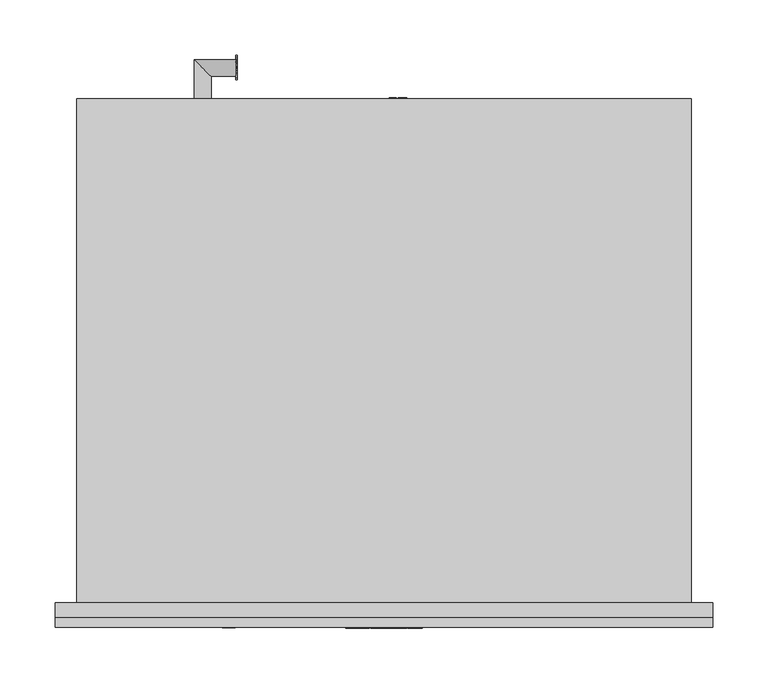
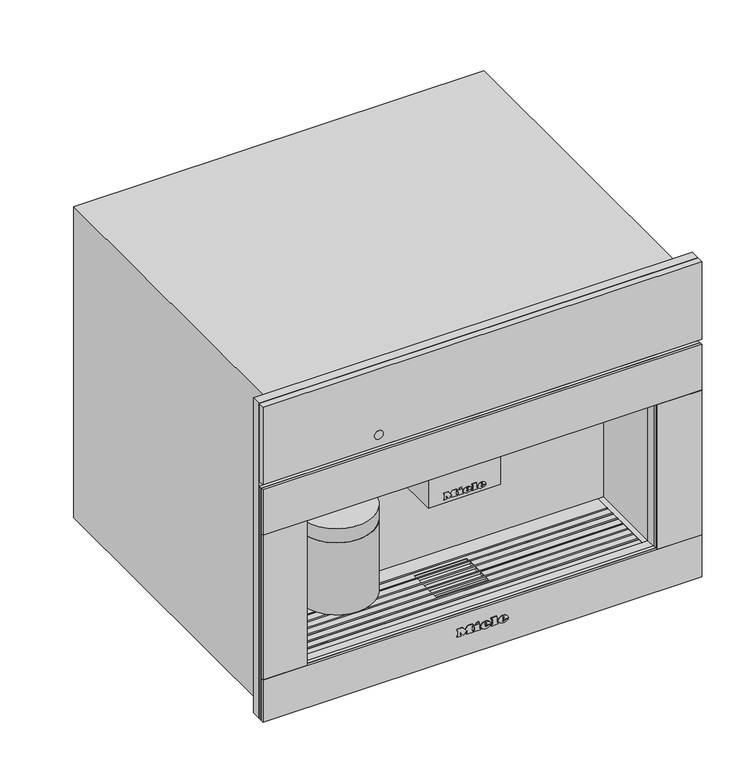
"""IFC4 building model written with IfcOpenShell, lengths in millimetres: proxy geometry, 11165800_RU_CVA7845_BRWS : 29784510_RU_11165800_CVA7845_BRWS."""

from ifc_helpers import new_model, si_unit, point, frame, frame_2d, origin, place, context, project, spatial, polyline, circle_curve, ellipse_curve, trimmed, segment, composite_curve, outline, extrude, faceted_brep, source, transform, mapped, element, save
from ifc_brep_helpers import plane_surface, cylinder_surface, revolved_surface, extruded_surface, advanced_brep


def specialty_equipment_4e86796f(model_context):
    return source(origin(), model_context, "Body", "SolidModel", [
        extrude(outline(composite_curve([segment(trimmed(circle_curve(frame_2d((-14.0, 36.5)), 5.0), [point((-9.0, 36.5))], [point((-19.0, 36.5))], False, "CARTESIAN"), True, "CONTINUOUS"), segment(trimmed(circle_curve(frame_2d((-14.0, 36.5)), 5.0), [point((-19.0, 36.5))], [point((-9.0, 36.5))], False, "CARTESIAN"), True, "CONTINUOUS")], self_intersect=False)), frame((0.0, 0.0, 193.0), z_axis=(0.0, 0.0, 1.0), x_axis=(1.0, 0.0, 0.0)), (0.0, 0.0, 1.0), 5.0),
        extrude(outline(composite_curve([segment(trimmed(circle_curve(frame_2d((14.0, 36.5)), 5.0), [point((19.0, 36.5))], [point((9.0, 36.5))], False, "CARTESIAN"), True, "CONTINUOUS"), segment(trimmed(circle_curve(frame_2d((14.0, 36.5)), 5.0), [point((9.0, 36.5))], [point((19.0, 36.5))], False, "CARTESIAN"), True, "CONTINUOUS")], self_intersect=False)), frame((0.0, 0.0, 193.0), z_axis=(0.0, 0.0, 1.0), x_axis=(1.0, 0.0, 0.0)), (0.0, 0.0, 1.0), 5.0),
        extrude(outline(composite_curve([segment(trimmed(circle_curve(frame_2d((-156.5, 49.5)), 50.0), [point((-106.5, 49.5))], [point((-206.5, 49.5))], False, "CARTESIAN"), True, "CONTINUOUS"), segment(trimmed(circle_curve(frame_2d((-156.5, 49.5)), 50.0), [point((-206.5, 49.5))], [point((-106.5, 49.5))], False, "CARTESIAN"), True, "CONTINUOUS")], self_intersect=False)), frame((0.0, 0.0, 100.0), z_axis=(0.0, 0.0, 1.0), x_axis=(1.0, 0.0, 0.0)), (0.0, 0.0, 1.0), 103.0),
        extrude(outline(polyline([(-49.0, 95.0), (49.0, 95.0), (49.0, 20.0), (-49.0, 20.0), (-49.0, 95.0)])), frame((0.0, 0.0, 198.0), z_axis=(0.0, 0.0, 1.0), x_axis=(1.0, 0.0, 0.0)), (0.0, 0.0, 1.0), 75.0),
        extrude(outline(polyline([(455.5, 297.5), (455.5, -297.5), (4.0, -297.5), (4.0, 297.5), (455.5, 297.5)]), holes=[polyline([(273.0, 237.5), (63.0, 237.5), (63.0, -237.5), (273.0, -237.5), (273.0, 237.5)])]), frame((0.0, -13.0, 0.0), z_axis=(0.0, 1.0, 0.0), x_axis=(0.0, 0.0, 1.0)), (0.0, 0.0, 1.0), 13.0),
        extrude(outline(polyline([(473.48348, 22.0), (473.48348, 32.045631), (474.7391839, 32.045631), (474.7391839, 27.128275), (479.8895318, 32.045631), (481.6455552, 32.045631), (477.3217155, 27.9155425), (481.8025182, 22.0), (480.267224, 22.0), (476.4314411, 27.0669613), (474.7391839, 25.4531857), (474.7391839, 22.0), (473.48348, 22.0)])), frame((-134.0, 0.0, 0.0), z_axis=(1.0, 0.0, 0.0), x_axis=(0.0, 1.0, 0.0)), (0.0, 0.0, 1.0), 1.0),
        extrude(outline(polyline([(484.5420128, 22.0), (481.8025182, 32.045631), (483.0974628, 32.045631), (484.6867131, 25.4433755), (485.1772224, 23.4053092), (485.7020674, 25.207931), (487.6935352, 32.045631), (489.5599232, 32.045631), (491.0069257, 27.0890343), (492.0835937, 23.4053092), (492.5593878, 25.3845144), (494.1633533, 32.045631), (495.4582979, 32.045631), (492.7163507, 22.0), (491.3748077, 22.0), (488.9664069, 29.7500474), (488.630408, 30.8316204), (488.2527159, 29.5293182), (486.0576866, 22.0), (484.5420128, 22.0)])), frame((-134.0, 0.0, 0.0), z_axis=(1.0, 0.0, 0.0), x_axis=(0.0, 1.0, 0.0)), (0.0, 0.0, 1.0), 1.0),
        advanced_brep(
        [(-171.5, 491.5, 27.0), (-156.5, 476.5, 27.0), (-134.0, 476.5, 27.0), (-134.0, 491.5, 27.0), (-171.5, 456.0, 27.0), (-156.5, 456.0, 27.0)],
        [
            (0, 1, ellipse_curve(frame((-164.0, 484.0, 27.0), z_axis=(0.707106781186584, 0.7071067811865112, 0.0), x_axis=(-0.7071067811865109, 0.7071067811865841, 0.0)), 10.6066017, 7.5)),
            (1, 2),
            (2, 3, circle_curve(frame((-134.0, 484.0, 27.0), z_axis=(-1.0, 0.0, 0.0), x_axis=(0.0, 1.0, 0.0)), 7.5)),
            (3, 0),
            (4, 5, circle_curve(frame((-164.0, 456.0, 27.0), z_axis=(0.0, 1.0, 0.0), x_axis=(-1.0, 0.0, 0.0)), 7.5)),
            (5, 1),
            (0, 4),
            (4, 5, circle_curve(frame((-164.0, 456.0, 27.0), z_axis=(0.0, -1.0, 0.0), x_axis=(-1.0, 0.0, 0.0)), 7.5)),
            (0, 1, ellipse_curve(frame((-164.0, 484.0, 27.0), z_axis=(-0.707106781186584, -0.7071067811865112, 0.0), x_axis=(0.7071067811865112, -0.7071067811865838, 0.0)), 10.6066017, 7.5)),
            (2, 3, circle_curve(frame((-134.0, 484.0, 27.0), z_axis=(1.0, 0.0, 0.0), x_axis=(0.0, 1.0, 0.0)), 7.5)),
        ],
        [
            cylinder_surface(frame((-164.0, 484.0, 27.0), z_axis=(-1.0, 0.0, 0.0), x_axis=(0.0, 1.0, 0.0)), 7.5),
            cylinder_surface(frame((-164.0, 456.0, 27.0), z_axis=(0.0, -1.0, 0.0), x_axis=(-1.0, 0.0, 0.0)), 7.5),
            plane_surface(frame((-164.0, 456.0, 27.0), z_axis=(0.0, -1.0, 0.0), x_axis=(0.0, 0.0, 1.0))),
            plane_surface(frame((-134.0, 484.0, 27.0), z_axis=(1.0, 0.0, 0.0), x_axis=(0.0, 0.0, 1.0))),
        ],
        [
            (0, [[1, 2, 3, 4]]),
            (1, [[5, 6, -1, 7]]),
            (2, [[-5, 8]]),
            (1, [[-8, -7, 9, -6]]),
            (3, [[10, -3]]),
            (0, [[-9, -4, -10, -2]]),
        ],
    ),
        extrude(outline(polyline([(97.0, 20.4012141), (107.045631, 20.4012141), (107.045631, 13.1809168), (105.7899271, 13.1809168), (105.7899271, 19.1455102), (102.8076304, 19.1455102), (102.8076304, 13.4948427), (101.5519266, 13.4948427), (101.5519266, 19.1455102), (98.2557039, 19.1455102), (98.2557039, 13.0239538), (97.0, 13.0239538), (97.0, 20.4012141)])), frame((0.0, 456.0, 0.0), z_axis=(0.0, 1.0, 0.0), x_axis=(0.0, 0.0, 1.0)), (0.0, 0.0, 1.0), 1.0),
        extrude(outline(polyline([(97.0, 11.140398), (107.045631, 11.140398), (107.045631, 9.8846941), (98.2557039, 9.8846941), (98.2557039, 4.8618786), (97.0, 4.8618786), (97.0, 11.140398)])), frame((0.0, 456.0, 0.0), z_axis=(0.0, 1.0, 0.0), x_axis=(0.0, 0.0, 1.0)), (0.0, 0.0, 1.0), 1.0),
        advanced_brep(
        [(5.5239538, 410.5, 102.0), (20.5239538, 425.5, 102.0), (20.5239538, 456.0, 102.0), (5.5239538, 456.0, 102.0), (55.0, 425.5, 102.0), (55.0, 410.5, 102.0)],
        [
            (0, 1, ellipse_curve(frame((13.0239538, 418.0, 102.0), z_axis=(-0.7071067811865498, 0.7071067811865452, 0.0), x_axis=(-0.7071067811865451, -0.7071067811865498, 0.0)), 10.6066017, 7.5)),
            (1, 2),
            (2, 3, circle_curve(frame((13.0239538, 456.0, 102.0), z_axis=(0.0, -1.0, 0.0), x_axis=(-1.0, 0.0, 0.0)), 7.5)),
            (3, 0),
            (4, 5, circle_curve(frame((55.0, 418.0, 102.0), z_axis=(1.0, 0.0, 0.0), x_axis=(0.0, -1.0, 0.0)), 7.5)),
            (5, 4, circle_curve(frame((55.0, 418.0, 102.0), z_axis=(1.0, 0.0, 0.0), x_axis=(0.0, -1.0, 0.0)), 7.5)),
            (4, 1),
            (0, 5),
            (0, 1, ellipse_curve(frame((13.0239538, 418.0, 102.0), z_axis=(0.7071067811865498, -0.7071067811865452, 0.0), x_axis=(0.7071067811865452, 0.7071067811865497, 0.0)), 10.6066017, 7.5)),
            (2, 3, circle_curve(frame((13.0239538, 456.0, 102.0), z_axis=(0.0, 1.0, 0.0), x_axis=(-1.0, 0.0, 0.0)), 7.5)),
        ],
        [
            cylinder_surface(frame((13.0239538, 418.0, 102.0), z_axis=(0.0, -1.0, 0.0), x_axis=(-1.0, 0.0, 0.0)), 7.5),
            plane_surface(frame((55.0, 418.0, 102.0), z_axis=(1.0, 0.0, 0.0), x_axis=(0.0, 0.0, 1.0))),
            cylinder_surface(frame((55.0, 418.0, 102.0), z_axis=(1.0, 0.0, 0.0), x_axis=(0.0, -1.0, 0.0)), 7.5),
            plane_surface(frame((13.0239538, 456.0, 102.0), z_axis=(0.0, 1.0, 0.0), x_axis=(0.0, 0.0, 1.0))),
        ],
        [
            (0, [[1, 2, 3, 4]]),
            (1, [[5, 6]]),
            (2, [[-5, 7, -1, 8]]),
            (2, [[-6, -8, 9, -7]]),
            (3, [[10, -3]]),
            (0, [[-9, -4, -10, -2]]),
        ],
    ),
        advanced_brep(
        [(-110.0, 49.5, 252.0), (-203.0, 49.5, 252.0), (-206.5, 49.5, 223.5), (-106.5, 49.5, 223.5), (-110.0, 49.5, 273.0), (-203.0, 49.5, 273.0), (-156.5, 49.5, 273.0), (-106.5, 49.5, 203.0), (-206.5, 49.5, 203.0), (-156.5, 49.5, 203.0)],
        [
            (0, 1, circle_curve(frame((-156.5, 49.5, 252.0), z_axis=(0.0, 0.0, -1.0), x_axis=(-1.0, 0.0, 0.0)), 46.5)),
            (1, 2, circle_curve(frame((-206.7961166, 49.5, 238.0012775), z_axis=(0.0, 1.0, 0.0), x_axis=(-1.0, 0.0, 0.0)), 14.5043005)),
            (2, 3, circle_curve(frame((-156.5, 49.5, 223.5), z_axis=(0.0, 0.0, 1.0), x_axis=(-1.0, 0.0, 0.0)), 50.0)),
            (3, 0, circle_curve(frame((-106.2038834, 49.5, 238.0012775), z_axis=(0.0, 1.0, 0.0), x_axis=(1.0, 0.0, 0.0)), 14.5043005)),
            (4, 5, circle_curve(frame((-156.5, 49.5, 273.0), z_axis=(0.0, 0.0, -1.0), x_axis=(-1.0, 0.0, 0.0)), 46.5)),
            (5, 1),
            (0, 4),
            (6, 4),
            (4, 5, circle_curve(frame((-156.5, 49.5, 273.0), z_axis=(0.0, 0.0, 1.0), x_axis=(-1.0, 0.0, 0.0)), 46.5)),
            (5, 6),
            (7, 8, circle_curve(frame((-156.5, 49.5, 203.0), z_axis=(0.0, 0.0, -1.0), x_axis=(-1.0, 0.0, 0.0)), 50.0)),
            (8, 9),
            (9, 7),
            (8, 7, circle_curve(frame((-156.5, 49.5, 203.0), z_axis=(0.0, 0.0, -1.0), x_axis=(-1.0, 0.0, 0.0)), 50.0)),
            (2, 8),
            (7, 3),
            (2, 3, circle_curve(frame((-156.5, 49.5, 223.5), z_axis=(0.0, 0.0, -1.0), x_axis=(-1.0, 0.0, 0.0)), 50.0)),
            (1, 0, circle_curve(frame((-156.5, 49.5, 252.0), z_axis=(0.0, 0.0, -1.0), x_axis=(-1.0, 0.0, 0.0)), 46.5)),
        ],
        [
            revolved_surface(trimmed(ellipse_curve(frame((-206.7961166, 49.5, 238.0012775), z_axis=(0.0, -1.0, 0.0), x_axis=(-1.0, 0.0, 0.0)), 14.5043005, 14.5043005), [point((-206.5, 49.5, 223.5))], [point((-203.0, 49.5, 252.0))], True, "CARTESIAN"), (-156.5, 49.5, 388.7361736), (0.0, 0.0, 1.0)),
            cylinder_surface(frame((-156.5, 49.5, 388.7361736), z_axis=(0.0, 0.0, 1.0), x_axis=(-1.0, 0.0, 0.0)), 46.5),
            plane_surface(frame((-156.5, 49.5, 273.0), z_axis=(0.0, 0.0, 1.0), x_axis=(-1.0, 0.0, 0.0))),
            plane_surface(frame((-156.5, 49.5, 203.0), z_axis=(0.0, 0.0, -1.0), x_axis=(-1.0, 0.0, 0.0))),
            cylinder_surface(frame((-156.5, 49.5, 388.7361736), z_axis=(0.0, 0.0, 1.0), x_axis=(-1.0, 0.0, 0.0)), 50.0),
        ],
        [
            (0, [[1, 2, 3, 4]]),
            (1, [[5, 6, -1, 7]]),
            (2, [[8, 9, 10]]),
            (3, [[11, 12, 13]]),
            (3, [[14, -13, -12]]),
            (4, [[-3, 15, -11, 16]]),
            (4, [[17, -16, -14, -15]]),
            (0, [[18, -4, -17, -2]]),
            (1, [[-9, -7, -18, -6]]),
            (2, [[-10, -5, -8]]),
        ],
    ),
        faceted_brep([(229.5, 82.0925571, 60.0), (229.5, 80.0925571, 60.0), (-229.5, 80.0925571, 60.0), (-229.5, 82.0925571, 60.0), (229.5, 70.0550731, 60.0), (229.5, 68.0550731, 60.0), (-229.5, 68.0550731, 60.0), (-229.5, 70.0550731, 60.0), (229.5, 58.0175891, 60.0), (229.5, 56.0175891, 60.0), (-229.5, 56.0175891, 60.0), (-229.5, 58.0175891, 60.0), (229.5, 45.9801052, 60.0), (229.5, 43.9801052, 60.0), (-229.5, 43.9801052, 60.0), (-229.5, 45.9801052, 60.0), (229.5, 33.9426212, 60.0), (229.5, 31.9426212, 60.0), (-229.5, 31.9426212, 60.0), (-229.5, 33.9426212, 60.0), (229.5, 21.9776522, 60.0), (229.5, 19.9776522, 60.0), (-229.5, 19.9776522, 60.0), (-229.5, 21.9776522, 60.0), (229.5, 10.0, 60.0), (229.5, 8.0, 60.0), (-229.5, 8.0, 60.0), (-229.5, 10.0, 60.0), (-229.5, 45.9801052, 62.0), (-36.0, 45.9801052, 62.0), (-36.0, 45.9801052, 63.0), (-229.5, 45.9801052, 63.0), (-229.5, 45.9801052, 63.5), (229.5, 45.9801052, 63.5), (229.5, 45.9801052, 63.0), (36.0, 45.9801052, 63.0), (36.0, 45.9801052, 62.0), (229.5, 45.9801052, 62.0), (229.5, 19.9776522, 62.0), (229.5, 10.0, 62.0), (-229.5, 10.0, 62.0), (-229.5, 19.9776522, 62.0), (229.5, 43.9801052, 62.0), (229.5, 33.9426212, 62.0), (36.0, 33.9426212, 62.0), (36.0, 43.9801052, 62.0), (229.5, 56.0175891, 62.0), (36.0, 56.0175891, 62.0), (229.5, 68.0550731, 62.0), (229.5, 58.0175891, 62.0), (36.0, 58.0175891, 62.0), (36.0, 68.0550731, 62.0), (-229.5, 33.9426212, 62.0), (-229.5, 43.9801052, 62.0), (-36.0, 43.9801052, 62.0), (-36.0, 33.9426212, 62.0), (-229.5, 56.0175891, 62.0), (-36.0, 56.0175891, 62.0), (-229.5, 58.0175891, 62.0), (-229.5, 68.0550731, 62.0), (-36.0, 68.0550731, 62.0), (-36.0, 58.0175891, 62.0), (-229.5, 104.5, 62.0), (229.5, 104.5, 62.0), (229.5, 82.0925571, 62.0), (-229.5, 82.0925571, 62.0), (36.0, 76.0, 62.0), (-36.0, 76.0, 62.0), (-36.0, 70.0550731, 62.0), (-229.5, 70.0550731, 62.0), (-229.5, 80.0925571, 62.0), (229.5, 80.0925571, 62.0), (229.5, 70.0550731, 62.0), (36.0, 70.0550731, 62.0), (229.5, 0.0, 62.0), (-229.5, 0.0, 62.0), (-229.5, 8.0, 62.0), (229.5, 8.0, 62.0), (-36.0, 25.0, 62.0), (36.0, 25.0, 62.0), (36.0, 31.9426212, 62.0), (229.5, 31.9426212, 62.0), (229.5, 21.9776522, 62.0), (-229.5, 21.9776522, 62.0), (-229.5, 31.9426212, 62.0), (-36.0, 31.9426212, 62.0), (229.5, 104.5, 63.0), (-229.5, 104.5, 63.0), (-229.5, 82.0925571, 63.0), (229.5, 82.0925571, 63.0), (-229.5, 0.0, 63.0), (229.5, 0.0, 63.0), (229.5, 8.0, 63.0), (-229.5, 8.0, 63.0), (-36.0, 76.0, 63.0), (36.0, 76.0, 63.0), (36.0, 70.0550731, 63.0), (229.5, 70.0550731, 63.0), (229.5, 80.0925571, 63.0), (-229.5, 80.0925571, 63.0), (-229.5, 70.0550731, 63.0), (-36.0, 70.0550731, 63.0), (36.0, 25.0, 63.0), (-36.0, 25.0, 63.0), (-36.0, 31.9426212, 63.0), (-229.5, 31.9426212, 63.0), (-229.5, 21.9776522, 63.0), (229.5, 21.9776522, 63.0), (229.5, 31.9426212, 63.0), (36.0, 31.9426212, 63.0), (-229.5, 19.9776522, 63.0), (-229.5, 10.0, 63.0), (229.5, 10.0, 63.0), (229.5, 19.9776522, 63.0), (-229.5, 43.9801052, 63.0), (-229.5, 33.9426212, 63.0), (-36.0, 33.9426212, 63.0), (-36.0, 43.9801052, 63.0), (-229.5, 56.0175891, 63.0), (-36.0, 56.0175891, 63.0), (-229.5, 68.0550731, 63.0), (-229.5, 58.0175891, 63.0), (-36.0, 58.0175891, 63.0), (-36.0, 68.0550731, 63.0), (229.5, 33.9426212, 63.0), (229.5, 43.9801052, 63.0), (36.0, 43.9801052, 63.0), (36.0, 33.9426212, 63.0), (229.5, 56.0175891, 63.0), (36.0, 56.0175891, 63.0), (229.5, 58.0175891, 63.0), (229.5, 68.0550731, 63.0), (36.0, 68.0550731, 63.0), (36.0, 58.0175891, 63.0), (-229.5, 8.0, 63.5), (-229.5, 10.0, 63.5), (-229.5, 19.9776522, 63.5), (-229.5, 21.9776522, 63.5), (-229.5, 31.9426212, 63.5), (-229.5, 33.9426212, 63.5), (-229.5, 43.9801052, 63.5), (-229.5, 56.0175891, 63.5), (-229.5, 58.0175891, 63.5), (-229.5, 68.0550731, 63.5), (-229.5, 70.0550731, 63.5), (-229.5, 80.0925571, 63.5), (-229.5, 82.0925571, 63.5), (229.5, 82.0925571, 63.5), (229.5, 80.0925571, 63.5), (229.5, 70.0550731, 63.5), (229.5, 68.0550731, 63.5), (229.5, 58.0175891, 63.5), (229.5, 56.0175891, 63.5), (229.5, 43.9801052, 63.5), (229.5, 33.9426212, 63.5), (229.5, 31.9426212, 63.5), (229.5, 21.9776522, 63.5), (229.5, 19.9776522, 63.5), (229.5, 10.0, 63.5), (229.5, 8.0, 63.5)], [[[0, 1, 2, 3]], [[4, 5, 6, 7]], [[8, 9, 10, 11]], [[12, 13, 14, 15]], [[16, 17, 18, 19]], [[20, 21, 22, 23]], [[24, 25, 26, 27]], [[12, 15, 28, 29, 30, 31, 32, 33, 34, 35, 36, 37]], [[38, 39, 40, 41]], [[42, 43, 44, 45]], [[46, 37, 36, 47]], [[48, 49, 50, 51]], [[52, 53, 54, 55]], [[28, 56, 57, 29]], [[58, 59, 60, 61]], [[62, 63, 64, 65]], [[66, 67, 68, 69, 70, 71, 72, 73]], [[74, 75, 76, 77]], [[78, 79, 80, 81, 82, 83, 84, 85]], [[86, 87, 88, 89]], [[90, 91, 92, 93]], [[94, 95, 96, 97, 98, 99, 100, 101]], [[102, 103, 104, 105, 106, 107, 108, 109]], [[110, 111, 112, 113]], [[114, 115, 116, 117]], [[118, 31, 30, 119]], [[120, 121, 122, 123]], [[124, 125, 126, 127]], [[34, 128, 129, 35]], [[130, 131, 132, 133]], [[63, 62, 87, 86]], [[87, 62, 65, 3, 2, 70, 69, 7, 6, 59, 58, 11, 10, 56, 28, 15, 14, 53, 52, 19, 18, 84, 83, 23, 22, 41, 40, 27, 26, 76, 75, 90, 93, 134, 135, 111, 110, 136, 137, 106, 105, 138, 139, 115, 114, 140, 32, 31, 118, 141, 142, 121, 120, 143, 144, 100, 99, 145, 146, 88]], [[75, 74, 91, 90]], [[63, 86, 89, 147, 148, 98, 97, 149, 150, 131, 130, 151, 152, 128, 34, 33, 153, 125, 124, 154, 155, 108, 107, 156, 157, 113, 112, 158, 159, 92, 91, 74, 77, 25, 24, 39, 38, 21, 20, 82, 81, 17, 16, 43, 42, 13, 12, 37, 46, 9, 8, 49, 48, 5, 4, 72, 71, 1, 0, 64]], [[66, 95, 94, 67]], [[55, 54, 117, 116]], [[29, 57, 119, 30]], [[61, 60, 123, 122]], [[67, 94, 101, 68]], [[103, 78, 85, 104]], [[78, 103, 102, 79]], [[45, 44, 127, 126]], [[47, 36, 35, 129]], [[51, 50, 133, 132]], [[95, 66, 73, 96]], [[79, 102, 109, 80]], [[158, 135, 134, 159]], [[156, 137, 136, 157]], [[154, 139, 138, 155]], [[33, 32, 140, 153]], [[151, 142, 141, 152]], [[149, 144, 143, 150]], [[147, 146, 145, 148]], [[24, 27, 40, 39]], [[135, 158, 112, 111]], [[26, 25, 77, 76]], [[159, 134, 93, 92]], [[20, 23, 83, 82]], [[137, 156, 107, 106]], [[22, 21, 38, 41]], [[157, 136, 110, 113]], [[16, 19, 52, 55, 116, 115, 139, 154, 124, 127, 44, 43]], [[18, 17, 81, 80, 109, 108, 155, 138, 105, 104, 85, 84]], [[14, 13, 42, 45, 126, 125, 153, 140, 114, 117, 54, 53]], [[8, 11, 58, 61, 122, 121, 142, 151, 130, 133, 50, 49]], [[10, 9, 46, 47, 129, 128, 152, 141, 118, 119, 57, 56]], [[4, 7, 69, 68, 101, 100, 144, 149, 97, 96, 73, 72]], [[6, 5, 48, 51, 132, 131, 150, 143, 120, 123, 60, 59]], [[0, 3, 65, 64]], [[146, 147, 89, 88]], [[2, 1, 71, 70]], [[148, 145, 99, 98]]]),
        faceted_brep([(-278.0, 456.0, 0.0), (-278.0, 0.0, 0.0), (-278.0, 0.0, 446.0), (-278.0, 456.0, 446.0), (278.0, 456.0, 0.0), (278.0, 456.0, 446.0), (278.0, 0.0, 446.0), (278.0, 0.0, 0.0), (55.0, 456.0, 133.0), (-22.0, 456.0, 133.0), (-22.0, 456.0, 89.0), (35.0, 456.0, 66.0), (55.0, 456.0, 66.0), (-36.0, 76.0, 58.0), (36.0, 76.0, 58.0), (36.0, 76.0, 62.0), (-36.0, 76.0, 62.0), (36.0, 25.0, 58.0), (-36.0, 25.0, 58.0), (-36.0, 25.0, 62.0), (36.0, 25.0, 62.0), (237.5, 0.0, 273.0), (237.5, 0.0, 63.0), (229.5, 0.0, 63.0), (229.5, 0.0, 62.0), (-229.5, 0.0, 62.0), (-229.5, 0.0, 63.0), (-237.5, 0.0, 63.0), (-237.5, 0.0, 273.0), (237.5, 104.5, 273.0), (-237.5, 104.5, 273.0), (-237.5, 104.5, 63.0), (-229.5, 104.5, 63.0), (-229.5, 104.5, 62.0), (229.5, 104.5, 62.0), (229.5, 104.5, 63.0), (237.5, 104.5, 63.0), (35.0, 400.0, 66.0), (55.0, 400.0, 66.0), (-22.0, 400.0, 133.0), (55.0, 400.0, 133.0), (-22.0, 400.0, 89.0)], [[[0, 1, 2, 3]], [[4, 5, 6, 7]], [[0, 3, 5, 4], [8, 9, 10, 11, 12]], [[13, 14, 15, 16]], [[17, 18, 19, 20]], [[3, 2, 6, 5]], [[2, 1, 7, 6], [21, 22, 23, 24, 25, 26, 27, 28]], [[1, 0, 4, 7]], [[29, 30, 31, 32, 33, 34, 35, 36]], [[29, 36, 22, 21]], [[22, 36, 35, 23]], [[31, 27, 26, 32]], [[31, 30, 28, 27]], [[30, 29, 21, 28]], [[34, 33, 25, 24], [16, 15, 20, 19]], [[25, 33, 32, 26]], [[34, 24, 23, 35]], [[14, 13, 18, 17]], [[18, 13, 16, 19]], [[14, 17, 20, 15]], [[37, 38, 12, 11]], [[39, 40, 38, 37, 41]], [[40, 39, 9, 8]], [[38, 40, 8, 12]], [[41, 37, 11, 10]], [[39, 41, 10, 9]]]),
        advanced_brep(
        [(27.088, -23.0, 36.7018), (27.088, -23.0, 37.8532), (34.7146, -23.0, 37.8532), (21.445, -23.0, 37.8532), (24.58, -23.0, 34.0), (34.5208, -23.0, 36.7018), (31.078, -23.0, 36.7018), (28.3648, -23.0, 35.425), (27.088, -23.0, 39.3124), (27.088, -23.0, 40.555), (29.0374, -23.0, 40.555), (29.0374, -23.0, 39.3124), (27.088, -22.0, 36.7018), (28.3648, -22.0, 35.425), (31.078, -22.0, 36.7018), (34.5208, -22.0, 36.7018), (24.58, -22.0, 34.0), (21.445, -22.0, 37.8532), (34.7146, -22.0, 37.8532), (27.088, -22.0, 37.8532), (27.088, -22.0, 39.3124), (29.0374, -22.0, 39.3124), (29.0374, -22.0, 40.555), (27.088, -22.0, 40.555)],
        [
            (0, 1),
            (1, 2),
            (2, 3, ellipse_curve(frame((28.0798, -23.0, 37.8532), z_axis=(0.0, -1.0, 0.0), x_axis=(-1.0, 0.0, 0.0)), 6.6348, 5.4834)),
            (3, 4, circle_curve(frame((25.8568622, -23.0, 38.2408), z_axis=(0.0, -1.0, 0.0), x_axis=(0.0, 0.0, -1.0)), 4.4288556)),
            (4, 5, circle_curve(frame((27.9469808, -23.0, 41.2504), z_axis=(0.0, -1.0, 0.0), x_axis=(0.0, 0.0, -1.0)), 7.9940516)),
            (5, 6),
            (6, 7, circle_curve(frame((28.9220588, -23.0, 37.762), z_axis=(0.0, 1.0, 0.0), x_axis=(0.0, 0.0, -1.0)), 2.4025208)),
            (7, 0, circle_curve(frame((28.3648, -23.0, 36.7018), z_axis=(0.0, 1.0, 0.0), x_axis=(0.0, 0.0, -1.0)), 1.2768)),
            (8, 9),
            (9, 10, circle_curve(frame((28.0627, -23.0, 40.555), z_axis=(0.0, 1.0, 0.0), x_axis=(0.0, 0.0, -1.0)), 0.9747)),
            (10, 11),
            (11, 8),
            (12, 13, circle_curve(frame((28.3648, -22.0, 36.7018), z_axis=(0.0, -1.0, 0.0), x_axis=(0.0, 0.0, -1.0)), 1.2768)),
            (13, 14, circle_curve(frame((28.9220588, -22.0, 37.762), z_axis=(0.0, -1.0, 0.0), x_axis=(0.0, 0.0, -1.0)), 2.4025208)),
            (14, 15),
            (15, 16, circle_curve(frame((27.9469808, -22.0, 41.2504), z_axis=(0.0, 1.0, 0.0), x_axis=(0.0, 0.0, -1.0)), 7.9940516)),
            (16, 17, circle_curve(frame((25.8568622, -22.0, 38.2408), z_axis=(0.0, 1.0, 0.0), x_axis=(0.0, 0.0, -1.0)), 4.4288556)),
            (17, 18, ellipse_curve(frame((28.0798, -22.0, 37.8532), z_axis=(0.0, 1.0, 0.0), x_axis=(-1.0, 0.0, 0.0)), 6.6348, 5.4834)),
            (18, 19),
            (19, 12),
            (20, 21),
            (21, 22),
            (22, 23, circle_curve(frame((28.0627, -22.0, 40.555), z_axis=(0.0, -1.0, 0.0), x_axis=(0.0, 0.0, -1.0)), 0.9747)),
            (23, 20),
            (0, 12),
            (19, 1),
            (18, 2),
            (5, 15),
            (14, 6),
            (17, 3),
            (13, 7),
            (16, 4),
            (8, 20),
            (23, 9),
            (22, 10),
            (21, 11),
        ],
        [
            plane_surface(frame((27.088, -23.0, 37.8532), z_axis=(0.0, -1.0, 0.0), x_axis=(0.0, 0.0, 1.0))),
            plane_surface(frame((27.088, -22.0, 37.8532), z_axis=(0.0, 1.0, 0.0), x_axis=(0.0, 0.0, -1.0))),
            plane_surface(frame((27.088, -23.0, 36.7018), z_axis=(1.0, 0.0, 0.0), x_axis=(0.0, 1.0, 0.0))),
            plane_surface(frame((27.088, -23.0, 37.8532), z_axis=(0.0, 0.0, -1.0), x_axis=(0.0, 1.0, 0.0))),
            plane_surface(frame((34.5208, -23.0, 36.7018), z_axis=(0.0, 0.0, 1.0), x_axis=(0.0, 1.0, 0.0))),
            extruded_surface(trimmed(ellipse_curve(frame((28.0798, -21.0, 37.8532), z_axis=(0.0, -1.0, 0.0), x_axis=(-1.0, 0.0, 0.0)), 6.6348, 5.4834), [point((34.7146, -21.0, 37.8532))], [point((21.445, -21.0, 37.8532))], True, "CARTESIAN"), (0.0, -1.0, 0.0), 1.0),
            revolved_surface(polyline([(28.9220588, -22.0, 35.3594792), (28.9220588, -23.0, 35.3594792)]), (28.9220588, -22.0, 37.762), (0.0, 1.0, 0.0)),
            revolved_surface(polyline([(28.3648, -22.0, 35.425), (28.3648, -23.0, 35.425)]), (28.3648, -22.0, 36.7018), (0.0, 1.0, 0.0)),
            cylinder_surface(frame((25.8568622, -22.0, 38.2408), z_axis=(0.0, -1.0, 0.0), x_axis=(0.0, 0.0, -1.0)), 4.4288556),
            cylinder_surface(frame((27.9469808, -22.0, 41.2504), z_axis=(0.0, -1.0, 0.0), x_axis=(0.0, 0.0, -1.0)), 7.9940516),
            plane_surface(frame((27.088, -23.0, 39.3124), z_axis=(1.0, 0.0, 0.0), x_axis=(0.0, 1.0, 0.0))),
            revolved_surface(polyline([(28.0627, -22.0, 39.5803), (28.0627, -23.0, 39.5803)]), (28.0627, -22.0, 40.555), (0.0, 1.0, 0.0)),
            plane_surface(frame((29.0374, -23.0, 40.555), z_axis=(-1.0, 0.0, 0.0), x_axis=(0.0, 1.0, 0.0))),
            plane_surface(frame((29.0374, -23.0, 39.3124), z_axis=(0.0, 0.0, 1.0), x_axis=(0.0, 1.0, 0.0))),
        ],
        [
            (0, [[1, 2, 3, 4, 5, 6, 7, 8], [9, 10, 11, 12]]),
            (1, [[13, 14, 15, 16, 17, 18, 19, 20], [21, 22, 23, 24]]),
            (2, [[-1, 25, -20, 26]]),
            (3, [[-2, -26, -19, 27]]),
            (4, [[-6, 28, -15, 29]]),
            (5, [[-3, -27, -18, 30]]),
            (6, [[-7, -29, -14, 31]]),
            (7, [[-8, -31, -13, -25]]),
            (8, [[-4, -30, -17, 32]]),
            (9, [[-5, -32, -16, -28]]),
            (10, [[-9, 33, -24, 34]]),
            (11, [[-10, -34, -23, 35]]),
            (12, [[-11, -35, -22, 36]]),
            (13, [[-12, -36, -21, -33]]),
        ],
    ),
        advanced_brep(
        [(3.2962, -23.0, 36.7018), (3.2962, -23.0, 37.8532), (10.9228, -23.0, 37.8532), (-2.3468, -23.0, 37.8532), (0.7882, -23.0, 34.0), (10.729, -23.0, 36.7018), (7.2862, -23.0, 36.7018), (4.573, -23.0, 35.425), (3.2962, -23.0, 39.3124), (3.2962, -23.0, 40.555), (5.2456, -23.0, 40.555), (5.2456, -23.0, 39.3124), (3.2962, -22.0, 36.7018), (4.573, -22.0, 35.425), (7.2862, -22.0, 36.7018), (10.729, -22.0, 36.7018), (0.7882, -22.0, 34.0), (-2.3468, -22.0, 37.8532), (10.9228, -22.0, 37.8532), (3.2962, -22.0, 37.8532), (3.2962, -22.0, 39.3124), (5.2456, -22.0, 39.3124), (5.2456, -22.0, 40.555), (3.2962, -22.0, 40.555)],
        [
            (0, 1),
            (1, 2),
            (2, 3, ellipse_curve(frame((4.288, -23.0, 37.8532), z_axis=(0.0, -1.0, 0.0), x_axis=(-1.0, 0.0, 0.0)), 6.6348, 5.4834)),
            (3, 4, circle_curve(frame((2.0650622, -23.0, 38.2408), z_axis=(0.0, -1.0, 0.0), x_axis=(0.0, 0.0, -1.0)), 4.4288556)),
            (4, 5, circle_curve(frame((4.1551808, -23.0, 41.2504), z_axis=(0.0, -1.0, 0.0), x_axis=(0.0, 0.0, -1.0)), 7.9940516)),
            (5, 6),
            (6, 7, circle_curve(frame((5.1302588, -23.0, 37.762), z_axis=(0.0, 1.0, 0.0), x_axis=(0.0, 0.0, -1.0)), 2.4025208)),
            (7, 0, circle_curve(frame((4.573, -23.0, 36.7018), z_axis=(0.0, 1.0, 0.0), x_axis=(0.0, 0.0, -1.0)), 1.2768)),
            (8, 9),
            (9, 10, circle_curve(frame((4.2709, -23.0, 40.555), z_axis=(0.0, 1.0, 0.0), x_axis=(0.0, 0.0, -1.0)), 0.9747)),
            (10, 11),
            (11, 8),
            (12, 13, circle_curve(frame((4.573, -22.0, 36.7018), z_axis=(0.0, -1.0, 0.0), x_axis=(0.0, 0.0, -1.0)), 1.2768)),
            (13, 14, circle_curve(frame((5.1302588, -22.0, 37.762), z_axis=(0.0, -1.0, 0.0), x_axis=(0.0, 0.0, -1.0)), 2.4025208)),
            (14, 15),
            (15, 16, circle_curve(frame((4.1551808, -22.0, 41.2504), z_axis=(0.0, 1.0, 0.0), x_axis=(0.0, 0.0, -1.0)), 7.9940516)),
            (16, 17, circle_curve(frame((2.0650622, -22.0, 38.2408), z_axis=(0.0, 1.0, 0.0), x_axis=(0.0, 0.0, -1.0)), 4.4288556)),
            (17, 18, ellipse_curve(frame((4.288, -22.0, 37.8532), z_axis=(0.0, 1.0, 0.0), x_axis=(-1.0, 0.0, 0.0)), 6.6348, 5.4834)),
            (18, 19),
            (19, 12),
            (20, 21),
            (21, 22),
            (22, 23, circle_curve(frame((4.2709, -22.0, 40.555), z_axis=(0.0, -1.0, 0.0), x_axis=(0.0, 0.0, -1.0)), 0.9747)),
            (23, 20),
            (0, 12),
            (19, 1),
            (18, 2),
            (5, 15),
            (14, 6),
            (17, 3),
            (13, 7),
            (16, 4),
            (8, 20),
            (23, 9),
            (22, 10),
            (21, 11),
        ],
        [
            plane_surface(frame((3.2962, -23.0, 37.8532), z_axis=(0.0, -1.0, 0.0), x_axis=(0.0, 0.0, 1.0))),
            plane_surface(frame((3.2962, -22.0, 37.8532), z_axis=(0.0, 1.0, 0.0), x_axis=(0.0, 0.0, -1.0))),
            plane_surface(frame((3.2962, -23.0, 36.7018), z_axis=(1.0, 0.0, 0.0), x_axis=(0.0, 1.0, 0.0))),
            plane_surface(frame((3.2962, -23.0, 37.8532), z_axis=(0.0, 0.0, -1.0), x_axis=(0.0, 1.0, 0.0))),
            plane_surface(frame((10.729, -23.0, 36.7018), z_axis=(0.0, 0.0, 1.0), x_axis=(0.0, 1.0, 0.0))),
            extruded_surface(trimmed(ellipse_curve(frame((4.288, -21.0, 37.8532), z_axis=(0.0, -1.0, 0.0), x_axis=(-1.0, 0.0, 0.0)), 6.6348, 5.4834), [point((10.9228, -21.0, 37.8532))], [point((-2.3468, -21.0, 37.8532))], True, "CARTESIAN"), (0.0, -1.0, 0.0), 1.0),
            revolved_surface(polyline([(5.1302588, -22.0, 35.3594792), (5.1302588, -23.0, 35.3594792)]), (5.1302588, -22.0, 37.762), (0.0, 1.0, 0.0)),
            revolved_surface(polyline([(4.573, -22.0, 35.425), (4.573, -23.0, 35.425)]), (4.573, -22.0, 36.7018), (0.0, 1.0, 0.0)),
            cylinder_surface(frame((2.0650622, -22.0, 38.2408), z_axis=(0.0, -1.0, 0.0), x_axis=(0.0, 0.0, -1.0)), 4.4288556),
            cylinder_surface(frame((4.1551808, -22.0, 41.2504), z_axis=(0.0, -1.0, 0.0), x_axis=(0.0, 0.0, -1.0)), 7.9940516),
            plane_surface(frame((3.2962, -23.0, 39.3124), z_axis=(1.0, 0.0, 0.0), x_axis=(0.0, 1.0, 0.0))),
            revolved_surface(polyline([(4.2709, -22.0, 39.5803), (4.2709, -23.0, 39.5803)]), (4.2709, -22.0, 40.555), (0.0, 1.0, 0.0)),
            plane_surface(frame((5.2456, -23.0, 40.555), z_axis=(-1.0, 0.0, 0.0), x_axis=(0.0, 1.0, 0.0))),
            plane_surface(frame((5.2456, -23.0, 39.3124), z_axis=(0.0, 0.0, 1.0), x_axis=(0.0, 1.0, 0.0))),
        ],
        [
            (0, [[1, 2, 3, 4, 5, 6, 7, 8], [9, 10, 11, 12]]),
            (1, [[13, 14, 15, 16, 17, 18, 19, 20], [21, 22, 23, 24]]),
            (2, [[-1, 25, -20, 26]]),
            (3, [[-2, -26, -19, 27]]),
            (4, [[-6, 28, -15, 29]]),
            (5, [[-3, -27, -18, 30]]),
            (6, [[-7, -29, -14, 31]]),
            (7, [[-8, -31, -13, -25]]),
            (8, [[-4, -30, -17, 32]]),
            (9, [[-5, -32, -16, -28]]),
            (10, [[-9, 33, -24, 34]]),
            (11, [[-10, -34, -23, 35]]),
            (12, [[-11, -35, -22, 36]]),
            (13, [[-12, -36, -21, -33]]),
        ],
    ),
        extrude(outline(polyline([(44.7274, -9.164), (42.8806, -8.2976), (44.6818, -4.433), (46.5286, -5.288), (44.7274, -9.164)])), frame((0.0, -23.0, 0.0), z_axis=(0.0, 1.0, 0.0), x_axis=(0.0, 0.0, 1.0)), (0.0, 0.0, 1.0), 1.0),
        extrude(outline(polyline([(42.6298, -11.9798), (40.5892, -11.9798), (40.5892, -10.6232), (35.9152, -10.6232), (35.9152, -11.9798), (34.0, -11.9798), (34.0, -2.9852), (35.9152, -2.9852), (35.9152, -4.3076), (42.6298, -4.3076), (42.6298, -11.9798)])), frame((0.0, -23.0, 0.0), z_axis=(0.0, 1.0, 0.0), x_axis=(0.0, 0.0, 1.0)), (0.0, 0.0, 1.0), 1.0),
        extrude(outline(polyline([(43.5418, 11.5612), (43.5418, 12.9292), (35.9152, 12.9292), (35.9152, 11.5612), (34.0, 11.5612), (34.0, 20.8066), (35.9152, 20.8066), (35.9152, 19.4044), (45.4, 19.4044), (45.4, 11.5612), (43.5418, 11.5612)])), frame((0.0, -23.0, 0.0), z_axis=(0.0, 1.0, 0.0), x_axis=(0.0, 0.0, 1.0)), (0.0, 0.0, 1.0), 1.0),
        extrude(outline(polyline([(43.5418, -34.7), (43.5418, -33.3206), (35.9152, -33.3206), (35.9152, -34.7), (34.0, -34.7), (34.0, -29.684), (35.9152, -29.684), (35.9152, -31.052), (40.7429247, -31.052), (34.0, -25.9562), (40.9402223, -20.8376), (35.9152, -20.8376), (35.9152, -22.2398), (34.0, -22.2398), (34.0, -13.1426), (35.9152, -13.1426), (35.9152, -14.5904), (43.5418, -14.5904), (43.5418, -13.1426), (45.4, -13.1426), (45.4, -20.0852), (41.125, -23.414), (45.4, -26.7542), (45.4, -34.7), (43.5418, -34.7)])), frame((0.0, -23.0, 0.0), z_axis=(0.0, 1.0, 0.0), x_axis=(0.0, 0.0, 1.0)), (0.0, 0.0, 1.0), 1.0),
        advanced_brep(
        [(22.348, 19.0, 205.5278), (22.348, 19.0, 206.4772), (28.6366, 19.0, 206.4772), (17.695, 19.0, 206.4772), (20.28, 19.0, 203.3), (28.4768, 19.0, 205.5278), (25.638, 19.0, 205.5278), (23.4008, 19.0, 204.475), (22.348, 19.0, 207.6804), (22.348, 19.0, 208.705), (23.9554, 19.0, 208.705), (23.9554, 19.0, 207.6804), (22.348, 20.0, 205.5278), (23.4008, 20.0, 204.475), (25.638, 20.0, 205.5278), (28.4768, 20.0, 205.5278), (20.28, 20.0, 203.3), (17.695, 20.0, 206.4772), (28.6366, 20.0, 206.4772), (22.348, 20.0, 206.4772), (22.348, 20.0, 207.6804), (23.9554, 20.0, 207.6804), (23.9554, 20.0, 208.705), (22.348, 20.0, 208.705)],
        [
            (0, 1),
            (1, 2),
            (2, 3, ellipse_curve(frame((23.1658, 19.0, 206.4772), z_axis=(0.0, -1.0, 0.0), x_axis=(-1.0, 0.0, 0.0)), 5.4708, 4.5214)),
            (3, 4, circle_curve(frame((21.3328513, 19.0, 206.7968), z_axis=(0.0, -1.0, 0.0), x_axis=(0.0, 0.0, -1.0)), 3.6518634)),
            (4, 5, circle_curve(frame((23.0562825, 19.0, 209.2784), z_axis=(0.0, -1.0, 0.0), x_axis=(0.0, 0.0, -1.0)), 6.5915864)),
            (5, 6),
            (6, 7, circle_curve(frame((23.8602941, 19.0, 206.402), z_axis=(0.0, 1.0, 0.0), x_axis=(0.0, 0.0, -1.0)), 1.981026)),
            (7, 0, circle_curve(frame((23.4008, 19.0, 205.5278), z_axis=(0.0, 1.0, 0.0), x_axis=(0.0, 0.0, -1.0)), 1.0528)),
            (8, 9),
            (9, 10, circle_curve(frame((23.1517, 19.0, 208.705), z_axis=(0.0, 1.0, 0.0), x_axis=(0.0, 0.0, -1.0)), 0.8037)),
            (10, 11),
            (11, 8),
            (12, 13, circle_curve(frame((23.4008, 20.0, 205.5278), z_axis=(0.0, -1.0, 0.0), x_axis=(0.0, 0.0, -1.0)), 1.0528)),
            (13, 14, circle_curve(frame((23.8602941, 20.0, 206.402), z_axis=(0.0, -1.0, 0.0), x_axis=(0.0, 0.0, -1.0)), 1.981026)),
            (14, 15),
            (15, 16, circle_curve(frame((23.0562825, 20.0, 209.2784), z_axis=(0.0, 1.0, 0.0), x_axis=(0.0, 0.0, -1.0)), 6.5915864)),
            (16, 17, circle_curve(frame((21.3328513, 20.0, 206.7968), z_axis=(0.0, 1.0, 0.0), x_axis=(0.0, 0.0, -1.0)), 3.6518634)),
            (17, 18, ellipse_curve(frame((23.1658, 20.0, 206.4772), z_axis=(0.0, 1.0, 0.0), x_axis=(-1.0, 0.0, 0.0)), 5.4708, 4.5214)),
            (18, 19),
            (19, 12),
            (20, 21),
            (21, 22),
            (22, 23, circle_curve(frame((23.1517, 20.0, 208.705), z_axis=(0.0, -1.0, 0.0), x_axis=(0.0, 0.0, -1.0)), 0.8037)),
            (23, 20),
            (0, 12),
            (19, 1),
            (18, 2),
            (5, 15),
            (14, 6),
            (17, 3),
            (13, 7),
            (16, 4),
            (8, 20),
            (23, 9),
            (22, 10),
            (21, 11),
        ],
        [
            plane_surface(frame((22.348, 19.0, 206.4772), z_axis=(0.0, -1.0, 0.0), x_axis=(0.0, 0.0, 1.0))),
            plane_surface(frame((22.348, 20.0, 206.4772), z_axis=(0.0, 1.0, 0.0), x_axis=(0.0, 0.0, -1.0))),
            plane_surface(frame((22.348, 19.0, 205.5278), z_axis=(1.0, 0.0, 0.0), x_axis=(0.0, 1.0, 0.0))),
            plane_surface(frame((22.348, 19.0, 206.4772), z_axis=(0.0, 0.0, -1.0), x_axis=(0.0, 1.0, 0.0))),
            plane_surface(frame((28.4768, 19.0, 205.5278), z_axis=(0.0, 0.0, 1.0), x_axis=(0.0, 1.0, 0.0))),
            extruded_surface(trimmed(ellipse_curve(frame((23.1658, 21.0, 206.4772), z_axis=(0.0, -1.0, 0.0), x_axis=(-1.0, 0.0, 0.0)), 5.4708, 4.5214), [point((28.6366, 21.0, 206.4772))], [point((17.695, 21.0, 206.4772))], True, "CARTESIAN"), (0.0, -1.0, 0.0), 1.0),
            revolved_surface(polyline([(23.8602941, 20.0, 204.420974), (23.8602941, 19.0, 204.420974)]), (23.8602941, 20.0, 206.402), (0.0, 1.0, 0.0)),
            revolved_surface(polyline([(23.4008, 20.0, 204.47500000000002), (23.4008, 19.0, 204.47500000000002)]), (23.4008, 20.0, 205.5278), (0.0, 1.0, 0.0)),
            cylinder_surface(frame((21.3328513, 20.0, 206.7968), z_axis=(0.0, -1.0, 0.0), x_axis=(0.0, 0.0, -1.0)), 3.6518634),
            cylinder_surface(frame((23.0562825, 20.0, 209.2784), z_axis=(0.0, -1.0, 0.0), x_axis=(0.0, 0.0, -1.0)), 6.5915864),
            plane_surface(frame((22.348, 19.0, 207.6804), z_axis=(1.0, 0.0, 0.0), x_axis=(0.0, 1.0, 0.0))),
            revolved_surface(polyline([(23.1517, 20.0, 207.90130000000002), (23.1517, 19.0, 207.90130000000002)]), (23.1517, 20.0, 208.705), (0.0, 1.0, 0.0)),
            plane_surface(frame((23.9554, 19.0, 208.705), z_axis=(-1.0, 0.0, 0.0), x_axis=(0.0, 1.0, 0.0))),
            plane_surface(frame((23.9554, 19.0, 207.6804), z_axis=(0.0, 0.0, 1.0), x_axis=(0.0, 1.0, 0.0))),
        ],
        [
            (0, [[1, 2, 3, 4, 5, 6, 7, 8], [9, 10, 11, 12]]),
            (1, [[13, 14, 15, 16, 17, 18, 19, 20], [21, 22, 23, 24]]),
            (2, [[-1, 25, -20, 26]]),
            (3, [[-2, -26, -19, 27]]),
            (4, [[-6, 28, -15, 29]]),
            (5, [[-3, -27, -18, 30]]),
            (6, [[-7, -29, -14, 31]]),
            (7, [[-8, -31, -13, -25]]),
            (8, [[-4, -30, -17, 32]]),
            (9, [[-5, -32, -16, -28]]),
            (10, [[-9, 33, -24, 34]]),
            (11, [[-10, -34, -23, 35]]),
            (12, [[-11, -35, -22, 36]]),
            (13, [[-12, -36, -21, -33]]),
        ],
    ),
        advanced_brep(
        [(2.7302, 19.0, 205.5278), (2.7302, 19.0, 206.4772), (9.0188, 19.0, 206.4772), (-1.9228, 19.0, 206.4772), (0.6622, 19.0, 203.3), (8.859, 19.0, 205.5278), (6.0202, 19.0, 205.5278), (3.783, 19.0, 204.475), (2.7302, 19.0, 207.6804), (2.7302, 19.0, 208.705), (4.3376, 19.0, 208.705), (4.3376, 19.0, 207.6804), (2.7302, 20.0, 205.5278), (3.783, 20.0, 204.475), (6.0202, 20.0, 205.5278), (8.859, 20.0, 205.5278), (0.6622, 20.0, 203.3), (-1.9228, 20.0, 206.4772), (9.0188, 20.0, 206.4772), (2.7302, 20.0, 206.4772), (2.7302, 20.0, 207.6804), (4.3376, 20.0, 207.6804), (4.3376, 20.0, 208.705), (2.7302, 20.0, 208.705)],
        [
            (0, 1),
            (1, 2),
            (2, 3, ellipse_curve(frame((3.548, 19.0, 206.4772), z_axis=(0.0, -1.0, 0.0), x_axis=(-1.0, 0.0, 0.0)), 5.4708, 4.5214)),
            (3, 4, circle_curve(frame((1.7150513, 19.0, 206.7968), z_axis=(0.0, -1.0, 0.0), x_axis=(0.0, 0.0, -1.0)), 3.6518634)),
            (4, 5, circle_curve(frame((3.4384825, 19.0, 209.2784), z_axis=(0.0, -1.0, 0.0), x_axis=(0.0, 0.0, -1.0)), 6.5915864)),
            (5, 6),
            (6, 7, circle_curve(frame((4.2424941, 19.0, 206.402), z_axis=(0.0, 1.0, 0.0), x_axis=(0.0, 0.0, -1.0)), 1.981026)),
            (7, 0, circle_curve(frame((3.783, 19.0, 205.5278), z_axis=(0.0, 1.0, 0.0), x_axis=(0.0, 0.0, -1.0)), 1.0528)),
            (8, 9),
            (9, 10, circle_curve(frame((3.5339, 19.0, 208.705), z_axis=(0.0, 1.0, 0.0), x_axis=(0.0, 0.0, -1.0)), 0.8037)),
            (10, 11),
            (11, 8),
            (12, 13, circle_curve(frame((3.783, 20.0, 205.5278), z_axis=(0.0, -1.0, 0.0), x_axis=(0.0, 0.0, -1.0)), 1.0528)),
            (13, 14, circle_curve(frame((4.2424941, 20.0, 206.402), z_axis=(0.0, -1.0, 0.0), x_axis=(0.0, 0.0, -1.0)), 1.981026)),
            (14, 15),
            (15, 16, circle_curve(frame((3.4384825, 20.0, 209.2784), z_axis=(0.0, 1.0, 0.0), x_axis=(0.0, 0.0, -1.0)), 6.5915864)),
            (16, 17, circle_curve(frame((1.7150513, 20.0, 206.7968), z_axis=(0.0, 1.0, 0.0), x_axis=(0.0, 0.0, -1.0)), 3.6518634)),
            (17, 18, ellipse_curve(frame((3.548, 20.0, 206.4772), z_axis=(0.0, 1.0, 0.0), x_axis=(-1.0, 0.0, 0.0)), 5.4708, 4.5214)),
            (18, 19),
            (19, 12),
            (20, 21),
            (21, 22),
            (22, 23, circle_curve(frame((3.5339, 20.0, 208.705), z_axis=(0.0, -1.0, 0.0), x_axis=(0.0, 0.0, -1.0)), 0.8037)),
            (23, 20),
            (0, 12),
            (19, 1),
            (18, 2),
            (5, 15),
            (14, 6),
            (17, 3),
            (13, 7),
            (16, 4),
            (8, 20),
            (23, 9),
            (22, 10),
            (21, 11),
        ],
        [
            plane_surface(frame((2.7302, 19.0, 206.4772), z_axis=(0.0, -1.0, 0.0), x_axis=(0.0, 0.0, 1.0))),
            plane_surface(frame((2.7302, 20.0, 206.4772), z_axis=(0.0, 1.0, 0.0), x_axis=(0.0, 0.0, -1.0))),
            plane_surface(frame((2.7302, 19.0, 205.5278), z_axis=(1.0, 0.0, 0.0), x_axis=(0.0, 1.0, 0.0))),
            plane_surface(frame((2.7302, 19.0, 206.4772), z_axis=(0.0, 0.0, -1.0), x_axis=(0.0, 1.0, 0.0))),
            plane_surface(frame((8.859, 19.0, 205.5278), z_axis=(0.0, 0.0, 1.0), x_axis=(0.0, 1.0, 0.0))),
            extruded_surface(trimmed(ellipse_curve(frame((3.548, 21.0, 206.4772), z_axis=(0.0, -1.0, 0.0), x_axis=(-1.0, 0.0, 0.0)), 5.4708, 4.5214), [point((9.0188, 21.0, 206.4772))], [point((-1.9228, 21.0, 206.4772))], True, "CARTESIAN"), (0.0, -1.0, 0.0), 1.0),
            revolved_surface(polyline([(4.2424941, 20.0, 204.420974), (4.2424941, 19.0, 204.420974)]), (4.2424941, 20.0, 206.402), (0.0, 1.0, 0.0)),
            revolved_surface(polyline([(3.783, 20.0, 204.47500000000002), (3.783, 19.0, 204.47500000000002)]), (3.783, 20.0, 205.5278), (0.0, 1.0, 0.0)),
            cylinder_surface(frame((1.7150513, 20.0, 206.7968), z_axis=(0.0, -1.0, 0.0), x_axis=(0.0, 0.0, -1.0)), 3.6518634),
            cylinder_surface(frame((3.4384825, 20.0, 209.2784), z_axis=(0.0, -1.0, 0.0), x_axis=(0.0, 0.0, -1.0)), 6.5915864),
            plane_surface(frame((2.7302, 19.0, 207.6804), z_axis=(1.0, 0.0, 0.0), x_axis=(0.0, 1.0, 0.0))),
            revolved_surface(polyline([(3.5339, 20.0, 207.90130000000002), (3.5339, 19.0, 207.90130000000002)]), (3.5339, 20.0, 208.705), (0.0, 1.0, 0.0)),
            plane_surface(frame((4.3376, 19.0, 208.705), z_axis=(-1.0, 0.0, 0.0), x_axis=(0.0, 1.0, 0.0))),
            plane_surface(frame((4.3376, 19.0, 207.6804), z_axis=(0.0, 0.0, 1.0), x_axis=(0.0, 1.0, 0.0))),
        ],
        [
            (0, [[1, 2, 3, 4, 5, 6, 7, 8], [9, 10, 11, 12]]),
            (1, [[13, 14, 15, 16, 17, 18, 19, 20], [21, 22, 23, 24]]),
            (2, [[-1, 25, -20, 26]]),
            (3, [[-2, -26, -19, 27]]),
            (4, [[-6, 28, -15, 29]]),
            (5, [[-3, -27, -18, 30]]),
            (6, [[-7, -29, -14, 31]]),
            (7, [[-8, -31, -13, -25]]),
            (8, [[-4, -30, -17, 32]]),
            (9, [[-5, -32, -16, -28]]),
            (10, [[-9, 33, -24, 34]]),
            (11, [[-10, -34, -23, 35]]),
            (12, [[-11, -35, -22, 36]]),
            (13, [[-12, -36, -21, -33]]),
        ],
    ),
        extrude(outline(polyline([(212.1454, -7.544), (210.6226, -6.8296), (212.1078, -3.643), (213.6306, -4.348), (212.1454, -7.544)])), frame((0.0, 19.0, 0.0), z_axis=(0.0, 1.0, 0.0), x_axis=(0.0, 0.0, 1.0)), (0.0, 0.0, 1.0), 1.0),
        extrude(outline(polyline([(210.4158, -9.8658), (208.7332, -9.8658), (208.7332, -8.7472), (204.8792, -8.7472), (204.8792, -9.8658), (203.3, -9.8658), (203.3, -2.4492), (204.8792, -2.4492), (204.8792, -3.5396), (210.4158, -3.5396), (210.4158, -9.8658)])), frame((0.0, 19.0, 0.0), z_axis=(0.0, 1.0, 0.0), x_axis=(0.0, 0.0, 1.0)), (0.0, 0.0, 1.0), 1.0),
        extrude(outline(polyline([(211.1678, 9.5452), (211.1678, 10.6732), (204.8792, 10.6732), (204.8792, 9.5452), (203.3, 9.5452), (203.3, 17.1686), (204.8792, 17.1686), (204.8792, 16.0124), (212.7, 16.0124), (212.7, 9.5452), (211.1678, 9.5452)])), frame((0.0, 19.0, 0.0), z_axis=(0.0, 1.0, 0.0), x_axis=(0.0, 0.0, 1.0)), (0.0, 0.0, 1.0), 1.0),
        extrude(outline(polyline([(211.1678, -28.6), (211.1678, -27.4626), (204.8792, -27.4626), (204.8792, -28.6), (203.3, -28.6), (203.3, -24.464), (204.8792, -24.464), (204.8792, -25.592), (208.8689247, -25.592), (203.3, -21.3902), (208.9902223, -17.1696), (204.8792, -17.1696), (204.8792, -18.3258), (203.3, -18.3258), (203.3, -10.8246), (204.8792, -10.8246), (204.8792, -12.0184), (211.1678, -12.0184), (211.1678, -10.8246), (212.7, -10.8246), (212.7, -16.5492), (209.175, -19.294), (212.7, -22.0482), (212.7, -28.6), (211.1678, -28.6)])), frame((0.0, 19.0, 0.0), z_axis=(0.0, 1.0, 0.0), x_axis=(0.0, 0.0, 1.0)), (0.0, 0.0, 1.0), 1.0),
        extrude(outline(polyline([(337.0, 297.5), (337.0, -297.5), (4.0, -297.5), (4.0, 297.5), (337.0, 297.5)]), holes=[polyline([(272.0, 237.5), (64.0, 237.5), (64.0, -237.5), (272.0, -237.5), (272.0, 237.5)])]), frame((0.0, -18.0, 0.0), z_axis=(0.0, 1.0, 0.0), x_axis=(0.0, 0.0, 1.0)), (0.0, 0.0, 1.0), 5.0),
        extrude(outline(polyline([(-297.5, -18.0), (-237.5, -18.0), (-237.5, -22.0), (-297.5, -22.0), (-297.5, -18.0)])), frame((0.0, 0.0, 64.5), z_axis=(0.0, 0.0, 1.0), x_axis=(1.0, 0.0, 0.0)), (0.0, 0.0, 1.0), 207.0),
        extrude(outline(polyline([(237.5, -18.0), (297.5, -18.0), (297.5, -22.0), (237.5, -22.0), (237.5, -18.0)])), frame((0.0, 0.0, 64.5), z_axis=(0.0, 0.0, 1.0), x_axis=(1.0, 0.0, 0.0)), (0.0, 0.0, 1.0), 207.0),
        extrude(outline(polyline([(-297.5, -18.0), (297.5, -18.0), (297.5, -22.0), (-297.5, -22.0), (-297.5, -18.0)])), frame((0.0, 0.0, 272.0), z_axis=(0.0, 0.0, 1.0), x_axis=(1.0, 0.0, 0.0)), (0.0, 0.0, 1.0), 65.0),
        extrude(outline(polyline([(-297.5, -18.0), (297.5, -18.0), (297.5, -22.0), (-297.5, -22.0), (-297.5, -18.0)])), frame((0.0, 0.0, 4.0), z_axis=(0.0, 0.0, 1.0), x_axis=(1.0, 0.0, 0.0)), (0.0, 0.0, 1.0), 60.0),
        extrude(outline(polyline([(297.5, -22.0), (-297.5, -22.0), (-297.5, -13.0), (297.5, -13.0), (297.5, -22.0)])), frame((0.0, 0.0, 344.0), z_axis=(0.0, 0.0, 1.0), x_axis=(1.0, 0.0, 0.0)), (0.0, 0.0, 1.0), 111.5),
        extrude(outline(composite_curve([segment(trimmed(circle_curve(frame_2d((361.0, -140.5745637)), 6.0), [point((361.0, -146.5745637))], [point((361.0, -134.5745637))], False, "CARTESIAN"), True, "CONTINUOUS"), segment(trimmed(circle_curve(frame_2d((361.0, -140.5745637)), 6.0), [point((361.0, -134.5745637))], [point((361.0, -146.5745637))], False, "CARTESIAN"), True, "CONTINUOUS")], self_intersect=False)), frame((0.0, -22.5, 0.0), z_axis=(0.0, 1.0, 0.0), x_axis=(0.0, 0.0, 1.0)), (0.0, 0.0, 1.0), 1.0),
    ])


if __name__ == "__main__":
    model = new_model("IFC4")
    model_context = context("Model", 3, world=origin())
    ifc_project = project(units=[si_unit("LENGTHUNIT", "METRE", prefix="MILLI")], contexts=[model_context])
    site = spatial("IfcSite", under=ifc_project)
    building = spatial("IfcBuilding", under=site)
    placement = place(None, origin())
    specialty_equipment_shape = specialty_equipment_4e86796f(model_context)
    element("IfcBuildingElementProxy", 1, Name="11165800_RU_CVA7845_BRWS : 29784510_RU_11165800_CVA7845_BRWS", ObjectType="11165800_RU_CVA7845_BRWS : 29784510_RU_11165800_CVA7845_BRWS", at=placement, inside=building, context=model_context, shape_type="MappedRepresentation", body=[
        mapped(specialty_equipment_shape, transform((0.0, 0.0, 0.0), x_axis=(1.0, 0.0, 0.0), y_axis=(0.0, 1.0, 0.0), z_axis=(0.0, 0.0, 1.0))),
    ])
    save(model, "model.ifc")
